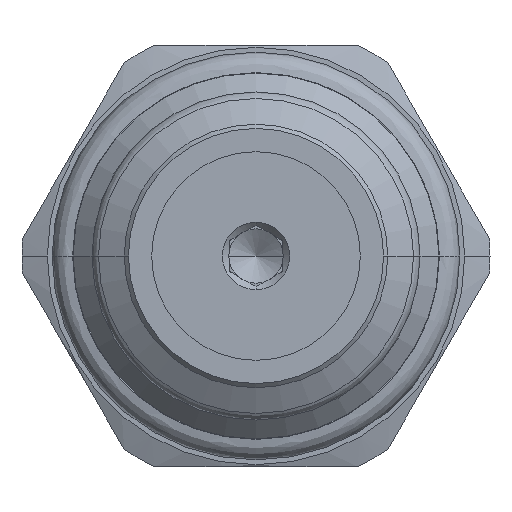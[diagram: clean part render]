
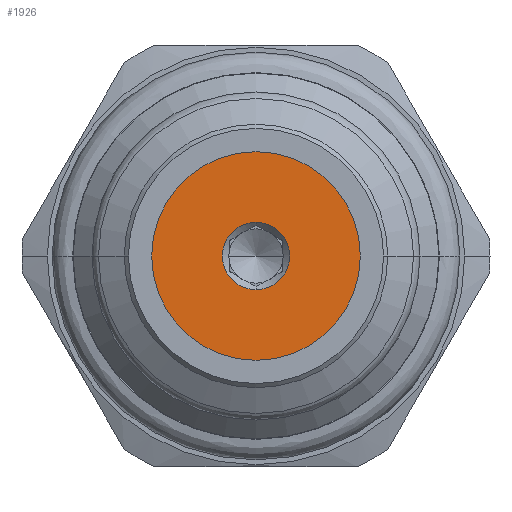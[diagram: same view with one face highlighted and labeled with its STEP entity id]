
A CAD part, front view. The second image highlights one B-rep face of the part: STEP entity #1926.
In plain terms, the highlighted planar face has unit normal (0, -1, 0).
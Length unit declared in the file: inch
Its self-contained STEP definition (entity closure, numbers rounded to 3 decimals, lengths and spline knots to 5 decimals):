
#243=CARTESIAN_POINT('',(0.,-2.544,0.));
#244=DIRECTION('',(0.,-1.,0.));
#245=DIRECTION('',(1.,0.,0.));
#246=AXIS2_PLACEMENT_3D('',#243,#244,#245);
#248=CARTESIAN_POINT('',(0.,-2.544,0.));
#249=DIRECTION('',(0.,1.,0.));
#250=DIRECTION('',(1.,0.,0.));
#251=AXIS2_PLACEMENT_3D('',#248,#249,#250);
#253=CARTESIAN_POINT('',(0.,-2.544,0.));
#254=DIRECTION('',(0.,-1.,0.));
#255=DIRECTION('',(0.,0.,-1.));
#256=AXIS2_PLACEMENT_3D('',#253,#254,#255);
#258=CARTESIAN_POINT('',(0.,-2.544,0.));
#259=DIRECTION('',(0.,-1.,0.));
#260=DIRECTION('',(0.,0.,1.));
#261=AXIS2_PLACEMENT_3D('',#258,#259,#260);
#1441=CARTESIAN_POINT('',(0.24735,-2.544,0.));
#1442=CARTESIAN_POINT('',(-0.24735,-2.544,0.));
#1443=VERTEX_POINT('',#1441);
#1444=VERTEX_POINT('',#1442);
#1525=CARTESIAN_POINT('',(0.,-2.544,-0.08));
#1526=CARTESIAN_POINT('',(0.,-2.544,0.08));
#1527=VERTEX_POINT('',#1525);
#1528=VERTEX_POINT('',#1526);
#1911=CARTESIAN_POINT('',(0.,-2.544,0.));
#1912=DIRECTION('',(0.,1.,0.));
#1913=DIRECTION('',(1.,0.,0.));
#1914=AXIS2_PLACEMENT_3D('',#1911,#1912,#1913);
#1915=PLANE('',#1914);
#1916=ORIENTED_EDGE('',*,*,#1905,.F.);
#1917=ORIENTED_EDGE('',*,*,#1891,.T.);
#1918=EDGE_LOOP('',(#1916,#1917));
#1919=FACE_OUTER_BOUND('',#1918,.F.);
#1921=ORIENTED_EDGE('',*,*,#1920,.T.);
#1923=ORIENTED_EDGE('',*,*,#1922,.T.);
#1924=EDGE_LOOP('',(#1921,#1923));
#1925=FACE_BOUND('',#1924,.F.);
#1926=ADVANCED_FACE('',(#1919,#1925),#1915,.F.);
#247=CIRCLE('',#246,0.24735);
#252=CIRCLE('',#251,0.24735);
#257=CIRCLE('',#256,0.08);
#262=CIRCLE('',#261,0.08);
#1891=EDGE_CURVE('',#1443,#1444,#252,.T.);
#1905=EDGE_CURVE('',#1443,#1444,#247,.T.);
#1920=EDGE_CURVE('',#1527,#1528,#257,.T.);
#1922=EDGE_CURVE('',#1528,#1527,#262,.T.);
